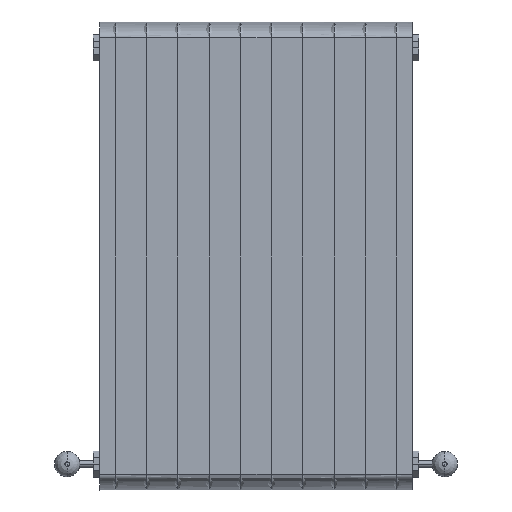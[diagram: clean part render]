
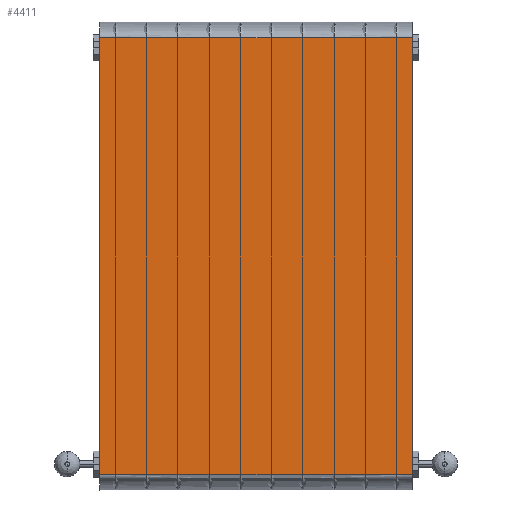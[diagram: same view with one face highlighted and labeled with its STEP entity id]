
A CAD part, front view. The second image highlights one B-rep face of the part: STEP entity #4411.
In plain terms, the highlighted planar face has unit normal (0, -1, 0).
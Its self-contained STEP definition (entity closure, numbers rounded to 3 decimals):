
#556=FACE_OUTER_BOUND('',#823,.T.);
#823=EDGE_LOOP('',(#2984,#2985,#2986,#2987));
#1163=LINE('',#6363,#1546);
#1166=LINE('',#6374,#1549);
#1168=LINE('',#6429,#1551);
#1169=LINE('',#6431,#1552);
#1546=VECTOR('',#5217,304.8);
#1549=VECTOR('',#5226,304.8);
#1551=VECTOR('',#5230,304.8);
#1552=VECTOR('',#5233,304.8);
#1898=VERTEX_POINT('',#6360);
#1899=VERTEX_POINT('',#6362);
#1903=VERTEX_POINT('',#6371);
#1904=VERTEX_POINT('',#6373);
#2292=EDGE_CURVE('',#1898,#1899,#1163,.T.);
#2297=EDGE_CURVE('',#1903,#1904,#1166,.T.);
#2300=EDGE_CURVE('',#1904,#1898,#1168,.T.);
#2301=EDGE_CURVE('',#1903,#1899,#1169,.T.);
#2984=ORIENTED_EDGE('',*,*,#2292,.F.);
#2985=ORIENTED_EDGE('',*,*,#2300,.F.);
#2986=ORIENTED_EDGE('',*,*,#2297,.F.);
#2987=ORIENTED_EDGE('',*,*,#2301,.T.);
#3992=PLANE('',#4705);
#4411=ADVANCED_FACE('',(#556),#3992,.T.);
#4705=AXIS2_PLACEMENT_3D('',#6430,#5231,#5232);
#5217=DIRECTION('',(0.,0.,-1.));
#5226=DIRECTION('',(0.,0.,1.));
#5230=DIRECTION('',(1.,0.,0.));
#5231=DIRECTION('center_axis',(0.,-1.,0.));
#5232=DIRECTION('ref_axis',(-1.,0.,0.));
#5233=DIRECTION('',(1.,0.,0.));
#6360=CARTESIAN_POINT('',(300.,-293.,930.));
#6362=CARTESIAN_POINT('',(300.,-293.,90.));
#6363=CARTESIAN_POINT('',(300.,-293.,930.));
#6371=CARTESIAN_POINT('',(-300.,-293.,90.));
#6373=CARTESIAN_POINT('',(-300.,-293.,930.));
#6374=CARTESIAN_POINT('',(-300.,-293.,90.));
#6429=CARTESIAN_POINT('',(300.,-293.,930.));
#6430=CARTESIAN_POINT('Origin',(300.,-293.,930.));
#6431=CARTESIAN_POINT('',(-300.,-293.,90.));
